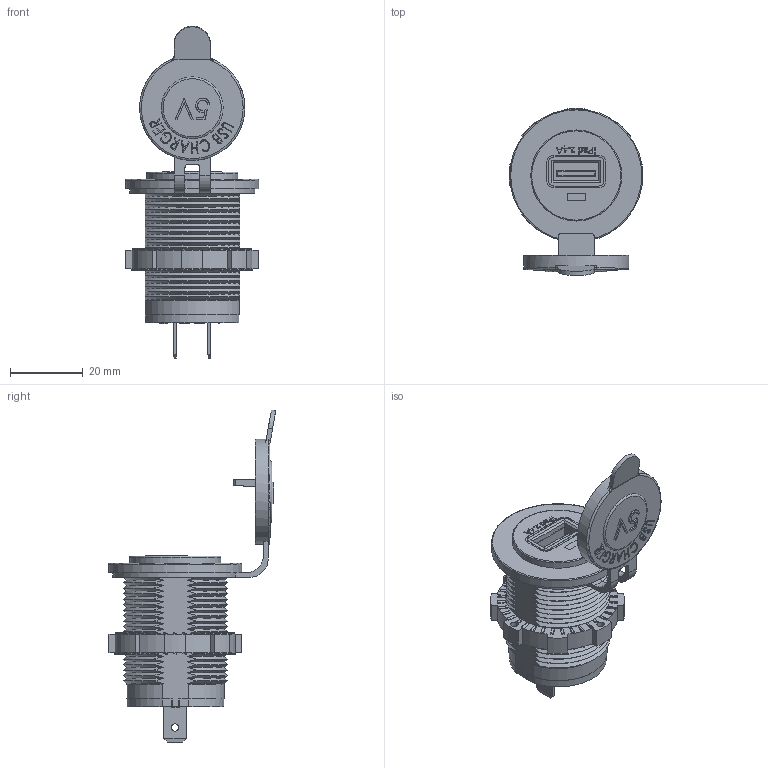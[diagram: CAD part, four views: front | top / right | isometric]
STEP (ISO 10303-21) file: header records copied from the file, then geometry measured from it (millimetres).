
FILE_DESCRIPTION(/* description */ (''),/* implementation_level */ '2;1');
FILE_NAME(/* name */ 'A8-USB1-1-BN-2.4A.stp',/* time_stamp */ '2025-02-17T13:03:01-08:00',/* author */ ('tylerl'),/* organization */ (''),/* preprocessor_version */ 'ST-DEVELOPER v20',/* originating_system */ 'Autodesk Inventor 2025',/* authorisation */ '');
FILE_SCHEMA (('AUTOMOTIVE_DESIGN { 1 0 10303 214 3 1 1 }'));
Products named in the file (20): Assembly13; AS-233E_20241028; AS212 Á³¥À; AS-233½u¸ôªO²Õ; AS233½u¸ôªO_Àq_; AS233¥¿·¥ºÝ¤l; AS233­t·¥ºÝ¤l; Àô§Î½u°é¥Ü·N¹
ÏD12H5.50.6P (2); D6.5´¡¥ó¹q®e_¤ô¥­
H8; D6.5´¡¥ó¹q®e_««ª½
H8; 0603 ¶K¤ù¹q®e_Àq_; 0603 ¶K¤ù¹qªý_Àq_; 0603 S2A-32V¶K¤ù«OÀIµ·_À
q_; JW1623_Àq_; MT4606_Àq_; COPY-LEDµu0.2mm; µu¥»Åé±²Ãä; AS233´ßÅé_µLLOGO; USB©³»\_îAÔO; AS233 ¨¾¹Ð»\_90«×
Assembly tree (29 placements, depth 4):
  Assembly13
    AS-233E_20241028
      AS212 Á³¥À
      AS-233½u¸ôªO²Õ
        AS233½u¸ôªO_Àq_
        AS233¥¿·¥ºÝ¤l
        AS233­t·¥ºÝ¤l
        Àô§Î½u°é¥Ü·N¹
ÏD12H5.50.6P (2)
        D6.5´¡¥ó¹q®e_¤ô¥­
H8
        D6.5´¡¥ó¹q®e_««ª½
H8
        0603 ¶K¤ù¹qªý_Àq_  x10
        0603 ¶K¤ù¹q®e_Àq_  x2
        0603 S2A-32V¶K¤ù«OÀIµ·_À
q_
        JW1623_Àq_
        MT4606_Àq_
        COPY-LEDµu0.2mm
        µu¥»Åé±²Ãä
      AS233´ßÅé_µLLOGO
      USB©³»\_îAÔO
      AS233 ¨¾¹Ð»\_90«×
Bounding box: 36.75 x 46.07 x 91.34 mm (x, y, z)
Volume: 16841.7 mm3; surface area: 22461.5 mm2
Topology: 36 solids, 36 shells, 1924 faces, 4935 edges, 3217 vertices
Faces by surface type: plane 1282, cylinder 306, bspline 225, cone 95, torus 12, sphere 4
Full cylindrical faces by diameter (mm): 0.5 x6, 0.6 x41, 1 x4, 2 x10, 4.5 x4, 5.16 x1, 6.5 x4, 9.84 x1, 23.5 x1, 24.9 x1, 25 x1, 25.05 x1, 26.5 x1, 27.5 x2, 29 x1, 36.6 x1
Entity records: 104009 total; most frequent: CARTESIAN_POINT 60443, ORIENTED_EDGE 9302, DIRECTION 8258, EDGE_CURVE 4651, LINE 3148, VECTOR 3148, VERTEX_POINT 3057, AXIS2_PLACEMENT_3D 2555
